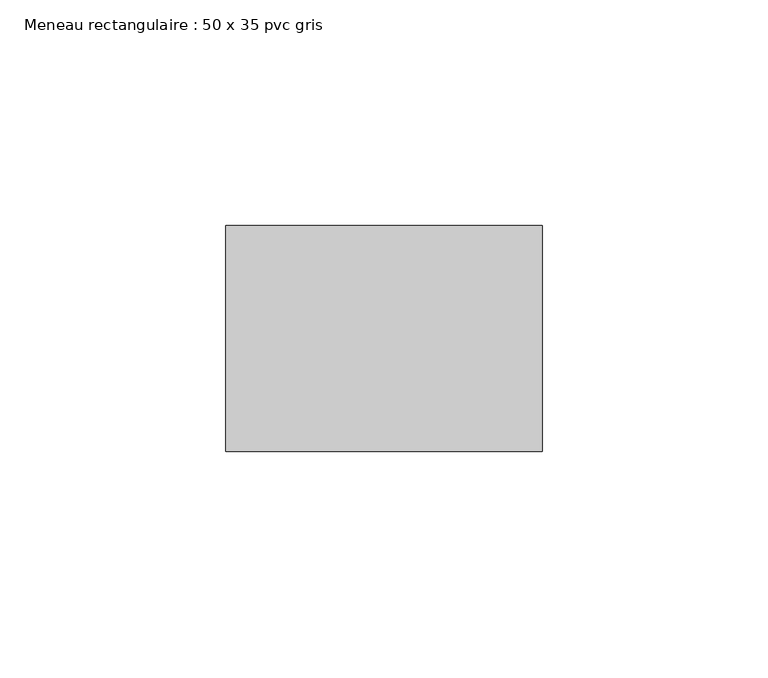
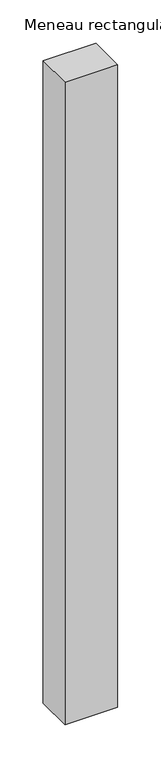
"""IFC4 building model written with IfcOpenShell, lengths in millimetres: member geometry, Meneau rectangulaire : 50 x 35 pvc gris."""

from ifc_helpers import new_model, si_unit, frame, origin, place, context, project, spatial, polyline, outline, extrude, source, transform, mapped, element, save


def meneau_rectangulaire_50_x_35_pvc_gris_3e745a45(model_context):
    return source(origin(), model_context, "Body", "SweptSolid", [
        extrude(outline(polyline([(0.0, 0.0), (0.0, -50.0), (-70.0, -50.0), (-70.0, 0.0), (0.0, 0.0)])), frame((0.0, 0.0, -903.0), z_axis=(0.0, 0.0, 1.0), x_axis=(1.0, 0.0, 0.0)), (0.0, 0.0, 1.0), 903.0),
    ])


if __name__ == "__main__":
    model = new_model("IFC4")
    model_context = context("Model", 3, world=origin())
    ifc_project = project(units=[si_unit("LENGTHUNIT", "METRE", prefix="MILLI")], contexts=[model_context])
    site = spatial("IfcSite", under=ifc_project)
    building = spatial("IfcBuilding", under=site)
    placement = place(None, origin())
    meneau_rectangulaire_50_x_35_pvc_gris_shape = meneau_rectangulaire_50_x_35_pvc_gris_3e745a45(model_context)
    element("IfcMember", 1, ObjectType="Meneau rectangulaire : 50 x 35 pvc gris", at=placement, inside=building, context=model_context, shape_type="MappedRepresentation", body=[
        mapped(meneau_rectangulaire_50_x_35_pvc_gris_shape, transform((0.0, 0.0, 0.0), x_axis=(1.0, 0.0, 0.0), y_axis=(0.0, 1.0, 0.0), z_axis=(0.0, 0.0, 1.0))),
    ])
    save(model, "model.ifc")
